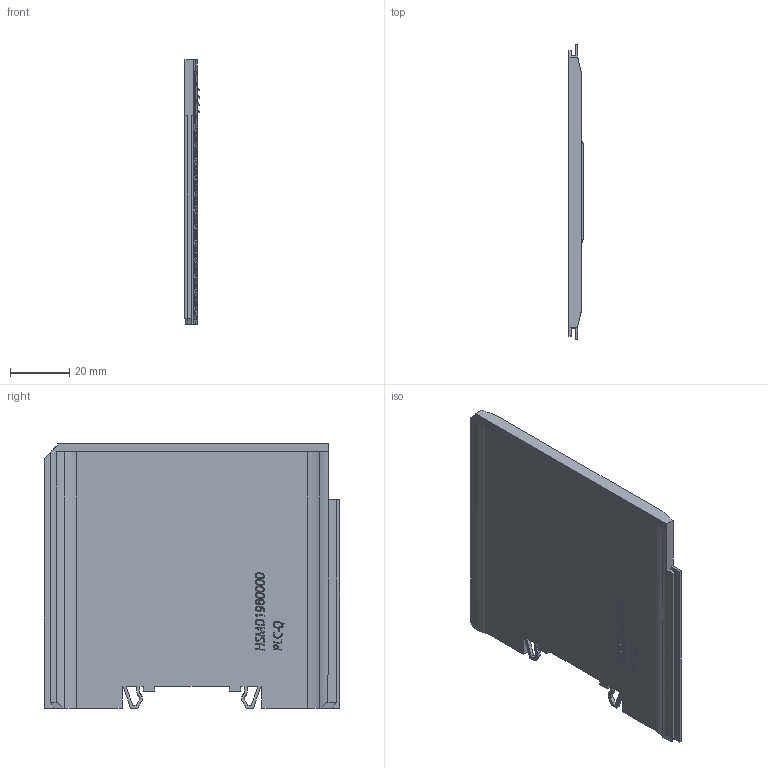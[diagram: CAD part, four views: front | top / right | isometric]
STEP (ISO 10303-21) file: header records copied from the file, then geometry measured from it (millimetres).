
FILE_DESCRIPTION((''),'2;1');
FILE_NAME('Q1-ENDCOVER','2019-12-19T',('Administrator'),(''),'PRO/ENGINEER BY PARAMETRIC TECHNOLOGY CORPORATION, 2010280','PRO/ENGINEER BY PARAMETRIC TECHNOLOGY CORPORATION, 2010280','');
FILE_SCHEMA(('AUTOMOTIVE_DESIGN_CC2 { 1 2 10303 214 -1 1 5 2 }'));
Products named in the file (1): Q1-ENDCOVER
Bounding box: 4.8 x 100 x 89.7 mm (x, y, z)
Volume: 21531.1 mm3; surface area: 21489.3 mm2
Topology: 1 solids, 1 shells, 3896 faces, 10272 edges, 6845 vertices
Faces by surface type: plane 3378, cylinder 277, extrusion 241
Entity records: 119574 total; most frequent: CARTESIAN_POINT 25912, ORIENTED_EDGE 20544, DIRECTION 16233, EDGE_CURVE 10272, VECTOR 8779, LINE 8538, VERTEX_POINT 6845, EDGE_LOOP 4367
